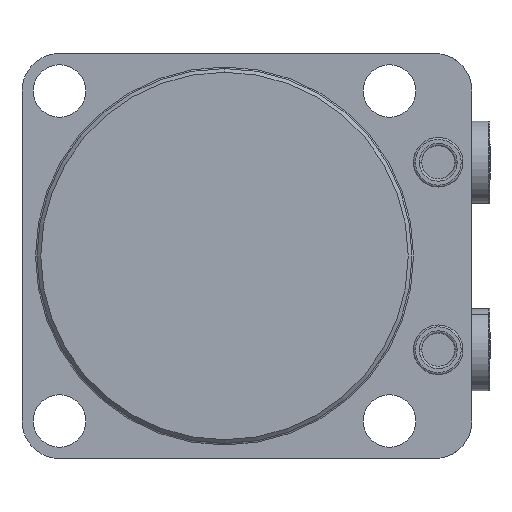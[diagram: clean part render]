
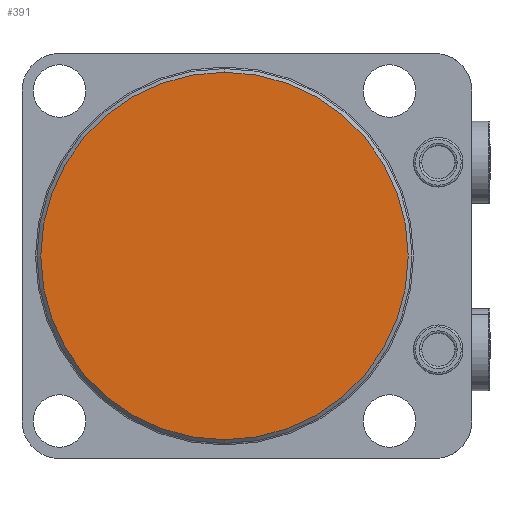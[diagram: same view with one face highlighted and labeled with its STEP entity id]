
A CAD part, front view. The second image highlights one B-rep face of the part: STEP entity #391.
In plain terms, the highlighted planar face has unit normal (0, -1, 0) as drawn and (0, 1, 0) by its records, which use the part's own axes.
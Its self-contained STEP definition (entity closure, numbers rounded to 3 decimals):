
#229=PLANE('',#3160);
#391=ADVANCED_FACE('',(#635),#229,.T.);
#635=FACE_OUTER_BOUND('',#813,.F.);
#813=EDGE_LOOP('',(#1414,#1415));
#1042=CIRCLE('',#3124,49.);
#1064=CIRCLE('',#3159,49.);
#1414=ORIENTED_EDGE('',*,*,#2446,.T.);
#1415=ORIENTED_EDGE('',*,*,#2385,.T.);
#2098=VERTEX_POINT('',#4638);
#2099=VERTEX_POINT('',#4639);
#2385=EDGE_CURVE('',#2098,#2099,#1042,.T.);
#2446=EDGE_CURVE('',#2099,#2098,#1064,.T.);
#3124=AXIS2_PLACEMENT_3D('',#4637,#3668,#3669);
#3159=AXIS2_PLACEMENT_3D('',#4767,#3772,#3773);
#3160=AXIS2_PLACEMENT_3D('',#4768,#3774,#3775);
#3668=DIRECTION('',(0.,-1.,0.));
#3669=DIRECTION('',(0.,0.,1.));
#3772=DIRECTION('',(0.,-1.,0.));
#3773=DIRECTION('',(0.,0.,1.));
#3774=DIRECTION('',(0.,1.,0.));
#3775=DIRECTION('',(0.,0.,1.));
#4637=CARTESIAN_POINT('',(0.,0.,0.));
#4638=CARTESIAN_POINT('',(0.,0.,-49.));
#4639=CARTESIAN_POINT('',(0.,0.,49.));
#4767=CARTESIAN_POINT('',(0.,0.,0.));
#4768=CARTESIAN_POINT('',(-54.,0.,54.));
